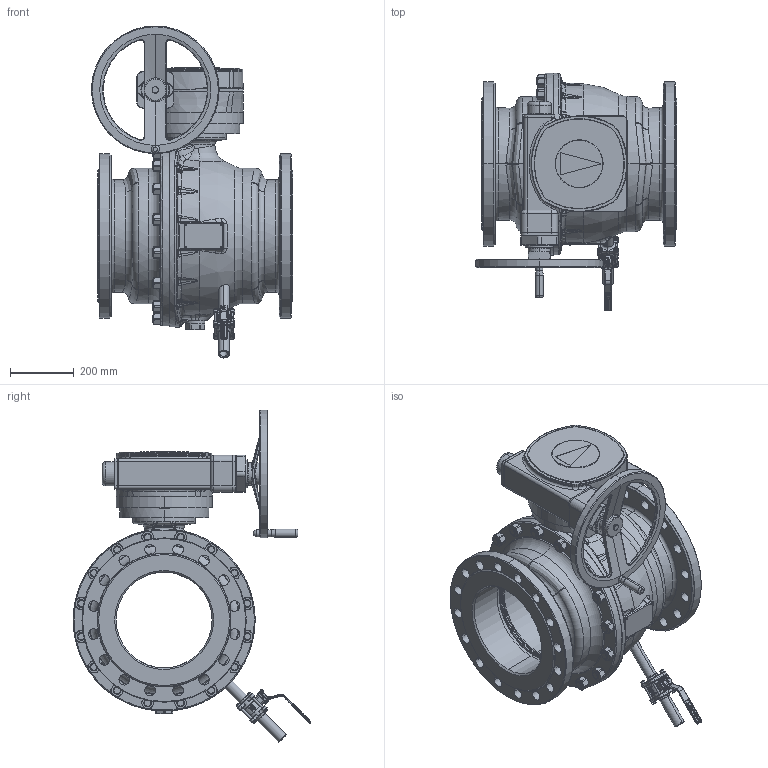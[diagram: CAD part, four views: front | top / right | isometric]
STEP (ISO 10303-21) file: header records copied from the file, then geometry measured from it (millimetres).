
FILE_DESCRIPTION((''),'2;1');
FILE_NAME('300_ASM','2017-01-16T',('schwaba'),('RAND'),'PRO/ENGINEER BY PARAMETRIC TECHNOLOGY CORPORATION, 2016100','PRO/ENGINEER BY PARAMETRIC TECHNOLOGY CORPORATION, 2016100','');
FILE_SCHEMA(('CONFIG_CONTROL_DESIGN'));
Products named in the file (3): KHI_300_PN40_FR_WE_ENTL_O_IT; GS125_F25_AHR400_ZWPL_DN300; 300_ASM
Assembly tree (2 placements, depth 2):
  300_ASM
    KHI_300_PN40_FR_WE_ENTL_O_IT
    GS125_F25_AHR400_ZWPL_DN300
Bounding box: 630 x 744.57 x 1040.09 mm (x, y, z)
Volume: 58849663.6 mm3; surface area: 5194697.2 mm2
Topology: 3 solids, 11 shells, 4573 faces, 11439 edges, 6993 vertices
Faces by surface type: plane 1775, cylinder 1011, bspline 615, cone 595, torus 508, sphere 69
Entity records: 277945 total; most frequent: CARTESIAN_POINT 172967, ORIENTED_EDGE 22764, DIRECTION 20967, EDGE_CURVE 11382, AXIS2_PLACEMENT_3D 7924, VERTEX_POINT 6993, VECTOR 5119, LINE 5119
